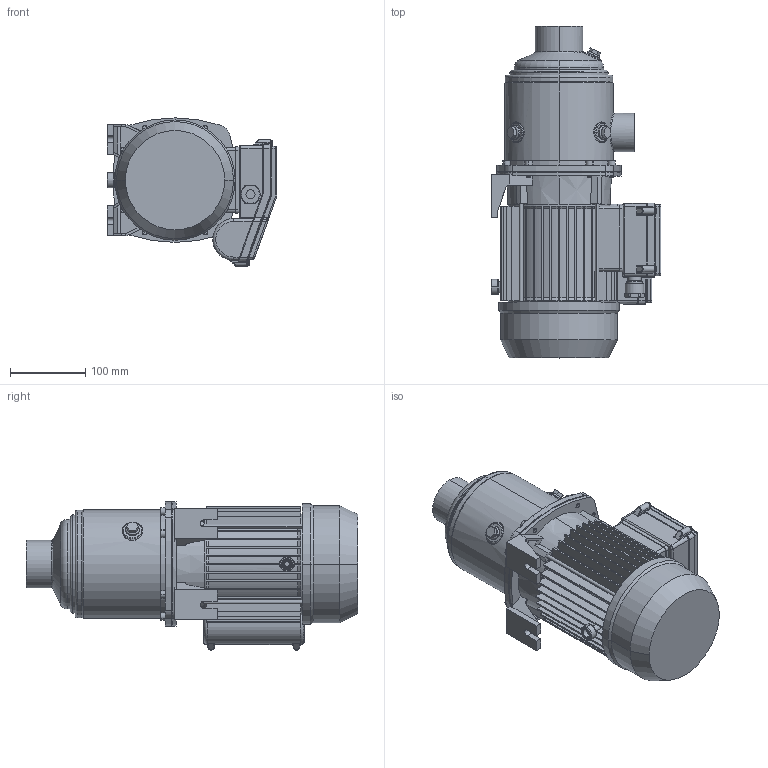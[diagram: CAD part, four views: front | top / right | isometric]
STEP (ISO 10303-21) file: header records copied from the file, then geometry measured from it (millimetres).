
FILE_DESCRIPTION((''),'2;1');
FILE_NAME('MATRIX_18-2T_1_5_M_ASM','2017-04-10T',('rosa'),('"Ebara Pumps Europe +39.444.706811"'),'PRO/ENGINEER BY PARAMETRIC TECHNOLOGY CORPORATION, 2012130','PRO/ENGINEER BY PARAMETRIC TECHNOLOGY CORPORATION, 2012130','');
FILE_SCHEMA(('AUTOMOTIVE_DESIGN { 1 0 10303 214 1 1 1 1 }'));
Length unit declared in the file: millimetre
Products named in the file (6): CORPO_POMPA_MATRIX_18-2_3; SUPPORTO_MATRIX_MEC_80; MEC_80_MONOFASE; 72229; COPRIMORSETTIERA_MEC80_90_M; MATRIX_18-2T_1_5_M_ASM
Assembly tree (5 placements, depth 2):
  MATRIX_18-2T_1_5_M_ASM
    CORPO_POMPA_MATRIX_18-2_3
    SUPPORTO_MATRIX_MEC_80
    MEC_80_MONOFASE
    72229
    COPRIMORSETTIERA_MEC80_90_M
Bounding box: 225 x 439.8 x 196.5 mm (x, y, z)
Volume: 5889917.9 mm3; surface area: 595383.8 mm2
Topology: 5 solids, 5 shells, 964 faces, 2308 edges, 1401 vertices
Faces by surface type: plane 427, cylinder 303, cone 107, torus 62, bspline 62, sphere 3
Entity records: 39350 total; most frequent: CARTESIAN_POINT 9442, DIRECTION 4714, ORIENTED_EDGE 4616, EDGE_CURVE 2308, PRESENTATION_STYLE_ASSIGNMENT 2262, STYLED_ITEM 2262, CURVE_STYLE 2258, AXIS2_PLACEMENT_3D 1817
